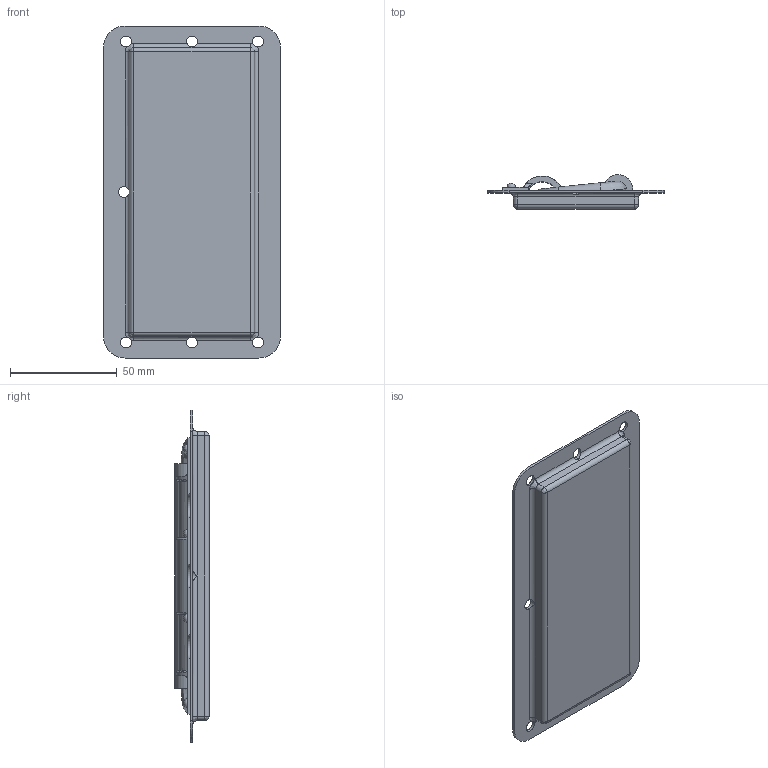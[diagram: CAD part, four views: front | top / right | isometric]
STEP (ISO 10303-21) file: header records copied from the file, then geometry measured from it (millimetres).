
FILE_DESCRIPTION (( 'STEP AP214' ), '1' );
FILE_NAME ('XG01-023.STEP', '2023-06-28T01:09:33', ( 'Windows 蚚誧' ), ( '' ), 'SwSTEP 2.0', 'SolidWorks 2019', '' );
FILE_SCHEMA (( 'AUTOMOTIVE_DESIGN' ));
Length unit declared in the file: millimetre
Products named in the file (3): LS504-3價釱_LS504F1A000001_1; XG01-023; LS504-3嶺遠_LS504F1A000001_1
Assembly tree (2 placements, depth 2):
  XG01-023
    LS504-3嶺遠_LS504F1A000001_1
    LS504-3價釱_LS504F1A000001_1
Bounding box: 82.8 x 16.02 x 155.6 mm (x, y, z)
Volume: 58017.8 mm3; surface area: 47067.2 mm2
Topology: 2 solids, 2 shells, 196 faces, 566 edges, 341 vertices
Faces by surface type: cylinder 85, plane 56, bspline 52, cone 3
Entity records: 8246 total; most frequent: CARTESIAN_POINT 3385, ORIENTED_EDGE 1072, DIRECTION 928, EDGE_CURVE 536, AXIS2_PLACEMENT_3D 347, VERTEX_POINT 341, VECTOR 234, LINE 234
